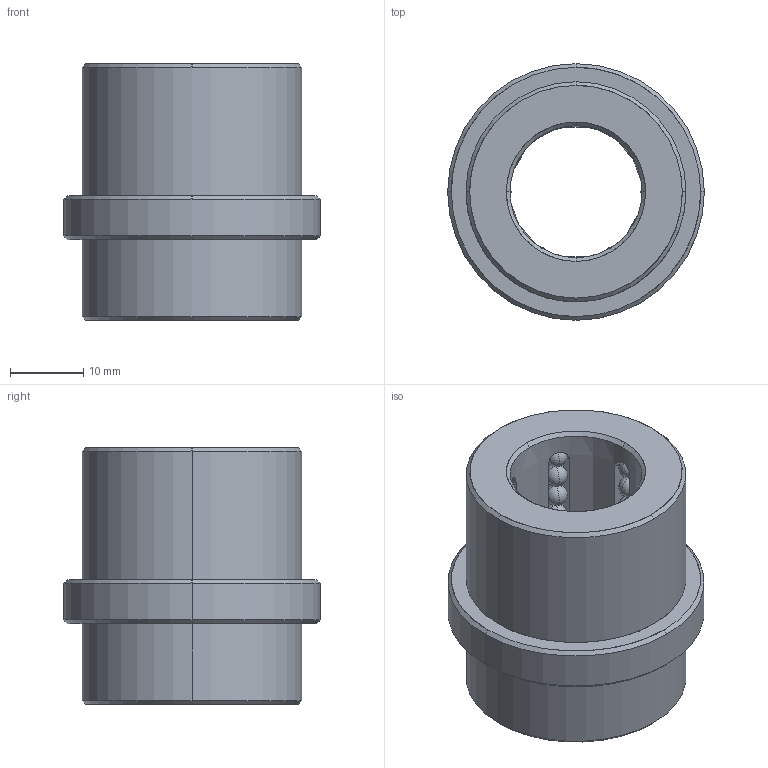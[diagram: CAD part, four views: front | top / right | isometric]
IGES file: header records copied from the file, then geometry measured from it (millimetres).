
Start section: START RECORD GO HERE.
Global section: file name: B8121835.igs; native system: DASSAULT SYSTEMES CATIA V5 R20 - www.3ds.com; preprocessor: CATIA Version 5 Release 20 ; author: Utente; organization: NB04-ASUS; date: 20200419.171254; units: millimetre
Bounding box: 35 x 35 x 35 mm (x, y, z)
Surface area: 9251.7 mm2 (no closed solid volume)
Topology: 0 solids, 0 shells, 282 faces, 1188 edges, 756 vertices
Faces by surface type: revolution 260, plane 22
